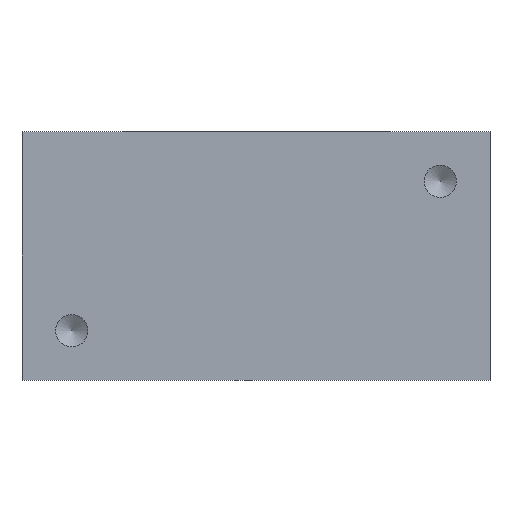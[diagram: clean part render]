
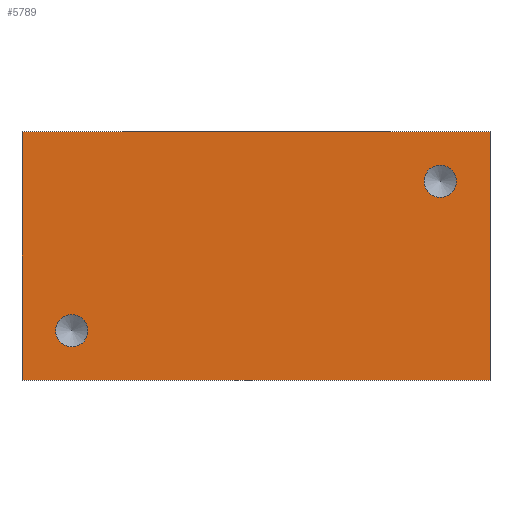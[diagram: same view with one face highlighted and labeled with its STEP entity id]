
A CAD part, front view. The second image highlights one B-rep face of the part: STEP entity #5789.
In plain terms, the highlighted planar face has unit normal (0, -1, 0).
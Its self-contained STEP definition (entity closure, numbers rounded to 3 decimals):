
#565=LINE('',#9023,#1057);
#719=LINE('',#9811,#1211);
#721=LINE('',#9815,#1213);
#722=LINE('',#9817,#1214);
#1057=VECTOR('',#7176,25.);
#1211=VECTOR('',#7460,47.);
#1213=VECTOR('',#7464,47.);
#1214=VECTOR('',#7467,25.);
#1334=FACE_BOUND('',#1962,.T.);
#1335=FACE_BOUND('',#1963,.T.);
#1633=FACE_OUTER_BOUND('',#1961,.T.);
#1961=EDGE_LOOP('',(#5079,#5080,#5081,#5082));
#1962=EDGE_LOOP('',(#5083));
#1963=EDGE_LOOP('',(#5084));
#2064=CIRCLE('',#6104,1.621);
#2066=CIRCLE('',#6108,1.621);
#2470=VERTEX_POINT('',#8991);
#2472=VERTEX_POINT('',#8997);
#2481=VERTEX_POINT('',#9021);
#2482=VERTEX_POINT('',#9022);
#2635=VERTEX_POINT('',#9809);
#2636=VERTEX_POINT('',#9813);
#3208=EDGE_CURVE('',#2470,#2470,#2064,.T.);
#3210=EDGE_CURVE('',#2472,#2472,#2066,.T.);
#3219=EDGE_CURVE('',#2481,#2482,#565,.T.);
#3451=EDGE_CURVE('',#2635,#2481,#719,.T.);
#3453=EDGE_CURVE('',#2482,#2636,#721,.T.);
#3454=EDGE_CURVE('',#2635,#2636,#722,.T.);
#5079=ORIENTED_EDGE('',*,*,#3454,.F.);
#5080=ORIENTED_EDGE('',*,*,#3451,.T.);
#5081=ORIENTED_EDGE('',*,*,#3219,.T.);
#5082=ORIENTED_EDGE('',*,*,#3453,.T.);
#5083=ORIENTED_EDGE('',*,*,#3208,.T.);
#5084=ORIENTED_EDGE('',*,*,#3210,.T.);
#5287=PLANE('',#6186);
#5789=ADVANCED_FACE('',(#1633,#1334,#1335),#5287,.T.);
#6104=AXIS2_PLACEMENT_3D('',#8992,#7142,#7143);
#6108=AXIS2_PLACEMENT_3D('',#8998,#7150,#7151);
#6186=AXIS2_PLACEMENT_3D('',#9818,#7468,#7469);
#7142=DIRECTION('center_axis',(0.,1.,0.));
#7143=DIRECTION('ref_axis',(1.,0.,0.));
#7150=DIRECTION('center_axis',(0.,1.,0.));
#7151=DIRECTION('ref_axis',(1.,0.,0.));
#7176=DIRECTION('',(0.,0.,-1.));
#7460=DIRECTION('',(-1.,0.,0.));
#7464=DIRECTION('',(1.,0.,0.));
#7467=DIRECTION('',(0.,0.,-1.));
#7468=DIRECTION('center_axis',(0.,-1.,0.));
#7469=DIRECTION('ref_axis',(0.,0.,-1.));
#8991=CARTESIAN_POINT('',(-16.879,0.,-7.5));
#8992=CARTESIAN_POINT('Origin',(-18.5,0.,-7.5));
#8997=CARTESIAN_POINT('',(20.121,0.,7.5));
#8998=CARTESIAN_POINT('Origin',(18.5,0.,7.5));
#9021=CARTESIAN_POINT('',(-23.5,0.,12.5));
#9022=CARTESIAN_POINT('',(-23.5,0.,-12.5));
#9023=CARTESIAN_POINT('',(-23.5,0.,0.));
#9809=CARTESIAN_POINT('',(23.5,0.,12.5));
#9811=CARTESIAN_POINT('',(23.5,0.,12.5));
#9813=CARTESIAN_POINT('',(23.5,0.,-12.5));
#9815=CARTESIAN_POINT('',(23.5,0.,-12.5));
#9817=CARTESIAN_POINT('',(23.5,0.,0.));
#9818=CARTESIAN_POINT('Origin',(23.5,0.,0.));
